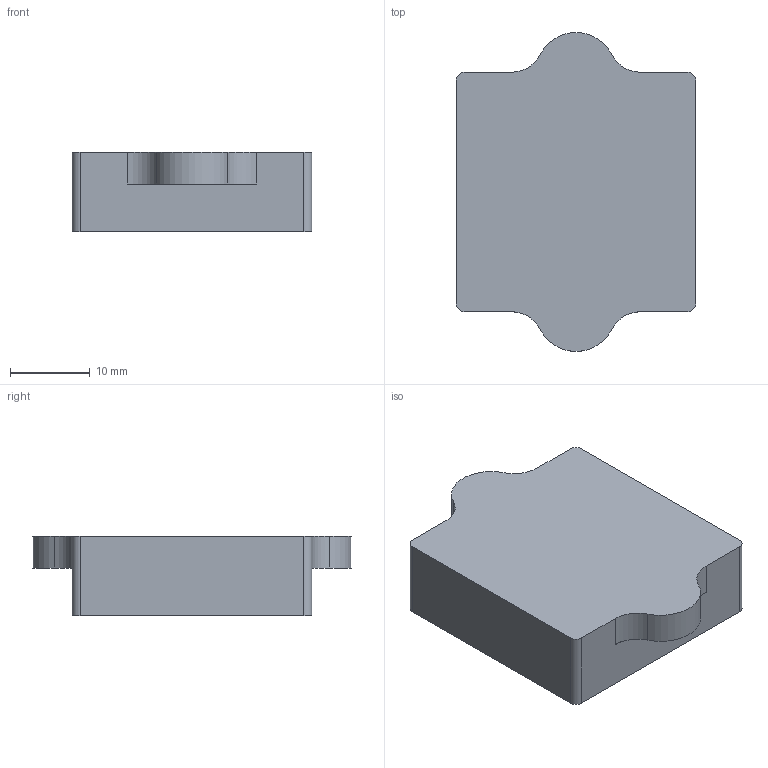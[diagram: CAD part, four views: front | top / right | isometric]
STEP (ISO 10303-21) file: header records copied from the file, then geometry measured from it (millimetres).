
FILE_DESCRIPTION (( 'STEP AP214' ), '1' );
FILE_NAME ('Formhaelfte_2.STEP', '2023-10-13T13:38:29', ( 'Lenovo' ), ( '' ), 'SwSTEP 2.0', 'SolidWorks 2019', '' );
FILE_SCHEMA (( 'AUTOMOTIVE_DESIGN' ));
Length unit declared in the file: millimetre
Products named in the file (1): Formhaelfte_2
Bounding box: 30 x 39.94 x 10 mm (x, y, z)
Volume: 8629.1 mm3; surface area: 3637.1 mm2
Topology: 1 solids, 1 shells, 33 faces, 84 edges, 56 vertices
Faces by surface type: cylinder 17, plane 16
Entity records: 1046 total; most frequent: DIRECTION 186, CARTESIAN_POINT 174, ORIENTED_EDGE 168, EDGE_CURVE 84, AXIS2_PLACEMENT_3D 68, VERTEX_POINT 56, VECTOR 50, LINE 50
